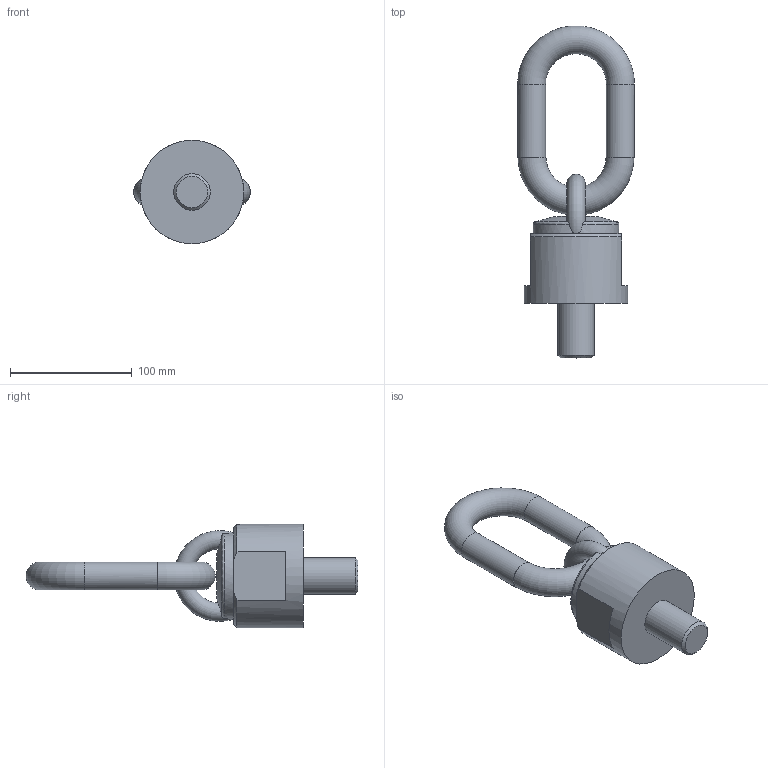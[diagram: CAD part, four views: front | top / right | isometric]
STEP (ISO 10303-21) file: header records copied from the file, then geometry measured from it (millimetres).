
FILE_DESCRIPTION( ( 'STEP AP203' ), '1' );
FILE_NAME( 'p:/temp/worker_4/temp/app_47_0201906261620354230701910e898ce_000000_00_00_000000/format_2/C8000803045.stp', '2019-06-26T14:20:36', ( '' ), ( '' ), ' ', 'PARTsolutions', ' ' );
FILE_SCHEMA( ( 'CONFIG_CONTROL_DESIGN' ) );
Length unit declared in the file: millimetre
Products named in the file (1): _C8000803045
Bounding box: 96 x 272.84 x 85 mm (x, y, z)
Volume: 551638.5 mm3; surface area: 61047.7 mm2
Topology: 1 solids, 1 shells, 27 faces, 66 edges, 41 vertices
Faces by surface type: plane 12, cylinder 6, torus 5, cone 4
Full cylindrical faces by diameter (mm): 23 x2, 30 x1, 85 x1
Entity records: 1086 total; most frequent: CARTESIAN_POINT 476, DIRECTION 118, ORIENTED_EDGE 104, AXIS2_PLACEMENT_3D 55, EDGE_CURVE 52, EDGE_LOOP 40, VERTEX_POINT 37, FACE_OUTER_BOUND 34
